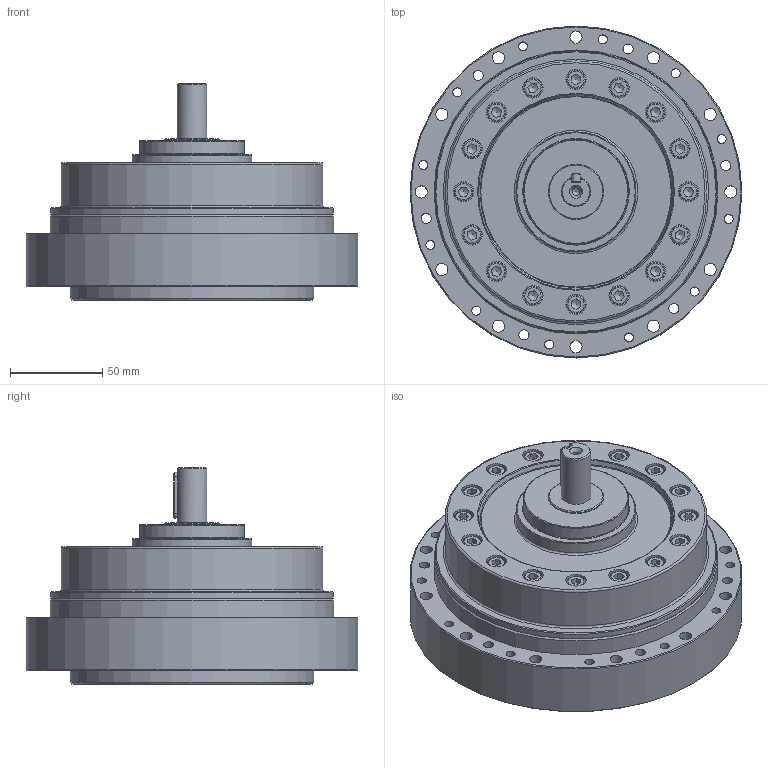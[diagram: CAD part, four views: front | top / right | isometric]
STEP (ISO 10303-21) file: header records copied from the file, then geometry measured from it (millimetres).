
FILE_DESCRIPTION(/* description */ (''),/* implementation_level */ '2;1');
FILE_NAME(/* name */ 'S:\TB00F\研發課二組\機密級\1.\X2\8A2D8A08\X0\\01-DT\DT-高彎矩型\40\DSC-40-AJ-M_3D\X2\6A21578B\X0\\DSC-40-XX-AJ-M.stp',/* time_stamp */ '2024-07-18T11:55:55+08:00',/* author */ ('bb1128.zheng'),/* organization */ (''),/* preprocessor_version */ 'ST-DEVELOPER v15.2',/* originating_system */ 'Autodesk Inventor 2014',/* authorisation */ '');
FILE_SCHEMA (('AUTOMOTIVE_DESIGN { 1 0 10303 214 3 1 1 }'));
Length unit declared in the file: centimetre
Products named in the file (1): DSC-40-XX-AJ-M
Bounding box: 180 x 180 x 117.5 mm (x, y, z)
Volume: 1430419.2 mm3; surface area: 122556.5 mm2
Topology: 1 solids, 1 shells, 350 faces, 812 edges, 526 vertices
Faces by surface type: plane 171, cylinder 108, cone 45, torus 26
Full cylindrical faces by diameter (mm): 4.134 x1, 4.6 x4, 4.917 x12, 5.5 x6, 6.6 x12, 6.647 x12, 8.376 x8, 10 x22, 11 x16, 16 x1, 30 x1, 56.054 x1, 57 x1, 65 x1, 105 x1, 132 x1, 142 x1, 146 x1, 153 x1, 154 x1, 180 x1
Entity records: 8797 total; most frequent: CARTESIAN_POINT 1615, DIRECTION 1445, ORIENTED_EDGE 1166, EDGE_LOOP 645, AXIS2_PLACEMENT_3D 610, EDGE_CURVE 583, VERTEX_POINT 468, ADVANCED_FACE 350
